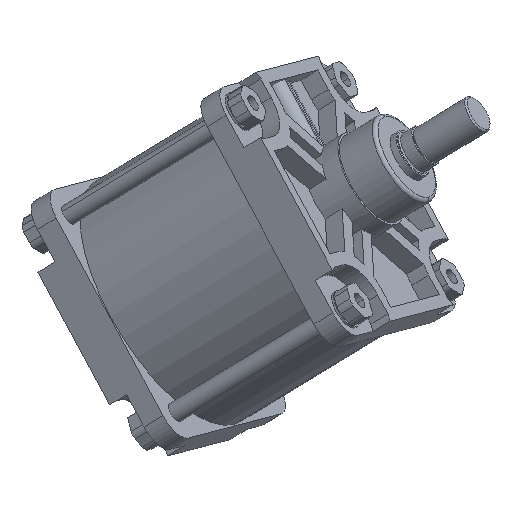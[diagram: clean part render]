
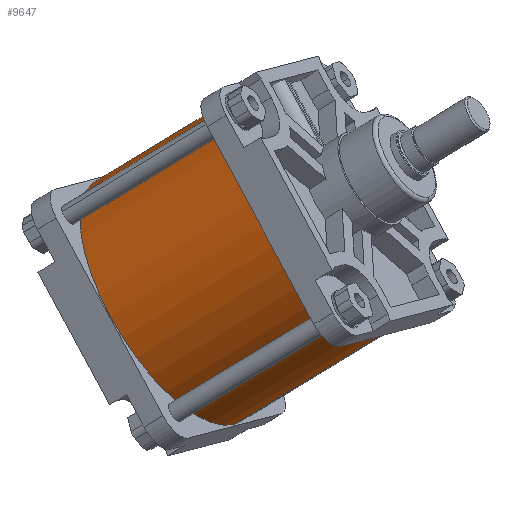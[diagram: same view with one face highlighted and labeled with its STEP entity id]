
A CAD part, top view. The second image highlights one B-rep face of the part: STEP entity #9647.
In plain terms, the highlighted cylindrical face has radius 168 mm (diameter 336 mm), a partial arc.
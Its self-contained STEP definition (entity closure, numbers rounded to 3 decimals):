
#8886=CARTESIAN_POINT('Vertex',(0.,168.,0.)) ;
#8888=CARTESIAN_POINT('Vertex',(0.,-168.,0.)) ;
#8891=CARTESIAN_POINT('Axis2P3D Location',(0.,0.,0.)) ;
#9605=CARTESIAN_POINT('Axis2P3D Location',(-115.5,0.,0.)) ;
#9610=CARTESIAN_POINT('Line Origine',(-115.5,168.,0.)) ;
#9614=CARTESIAN_POINT('Vertex',(-231.,168.,0.)) ;
#9617=CARTESIAN_POINT('Line Origine',(-115.5,-168.,0.)) ;
#9621=CARTESIAN_POINT('Vertex',(-231.,-168.,0.)) ;
#9636=CARTESIAN_POINT('Axis2P3D Location',(-231.,0.,0.)) ;
#8892=DIRECTION('Axis2P3D Direction',(1.,0.,0.)) ;
#9606=DIRECTION('Axis2P3D Direction',(-1.,-0.,0.)) ;
#9607=DIRECTION('Axis2P3D XDirection',(0.,-1.,0.)) ;
#9611=DIRECTION('Vector Direction',(-1.,0.,0.)) ;
#9618=DIRECTION('Vector Direction',(-1.,0.,0.)) ;
#9637=DIRECTION('Axis2P3D Direction',(-1.,-0.,0.)) ;
#8893=AXIS2_PLACEMENT_3D('Circle Axis2P3D',#8891,#8892,$) ;
#9608=AXIS2_PLACEMENT_3D('Cylinder Axis2P3D',#9605,#9606,#9607) ;
#9638=AXIS2_PLACEMENT_3D('Circle Axis2P3D',#9636,#9637,$) ;
#9642=ORIENTED_EDGE('',*,*,#9623,.F.) ;
#9643=ORIENTED_EDGE('',*,*,#8895,.T.) ;
#9644=ORIENTED_EDGE('',*,*,#9616,.T.) ;
#9645=ORIENTED_EDGE('',*,*,#9640,.F.) ;
#9612=VECTOR('Line Direction',#9611,1.) ;
#9619=VECTOR('Line Direction',#9618,1.) ;
#9647=ADVANCED_FACE('PartBody',(#9646),#9609,.T.) ;
#8894=CIRCLE('generated circle',#8893,168.) ;
#9639=CIRCLE('generated circle',#9638,168.) ;
#9609=CYLINDRICAL_SURFACE('generated cylinder',#9608,168.) ;
#8895=EDGE_CURVE('',#8889,#8887,#8894,.F.) ;
#9616=EDGE_CURVE('',#8887,#9615,#9613,.T.) ;
#9623=EDGE_CURVE('',#8889,#9622,#9620,.T.) ;
#9640=EDGE_CURVE('',#9622,#9615,#9639,.T.) ;
#9641=EDGE_LOOP('',(#9642,#9643,#9644,#9645)) ;
#9646=FACE_OUTER_BOUND('',#9641,.T.) ;
#9613=LINE('Line',#9610,#9612) ;
#9620=LINE('Line',#9617,#9619) ;
#8887=VERTEX_POINT('',#8886) ;
#8889=VERTEX_POINT('',#8888) ;
#9615=VERTEX_POINT('',#9614) ;
#9622=VERTEX_POINT('',#9621) ;
